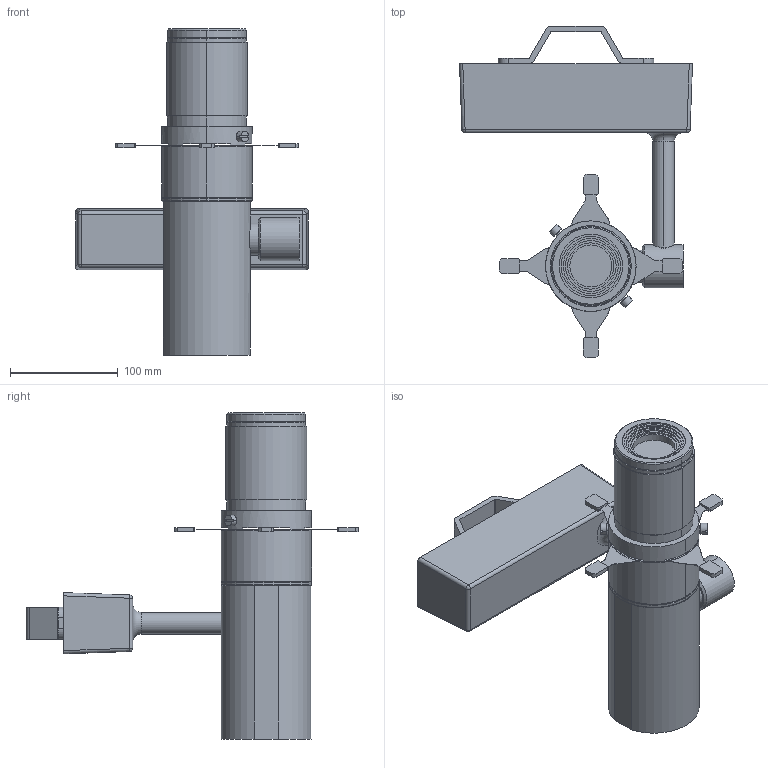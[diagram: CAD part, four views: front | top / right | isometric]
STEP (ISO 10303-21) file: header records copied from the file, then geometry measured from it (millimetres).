
FILE_DESCRIPTION (( 'STEP AP203' ), '1' );
FILE_NAME ('P1L (Clamp_Top Mount_W)_Hanging+36D_10-06-2026.STEP', '2026-06-11T01:16:06', ( '' ), ( '' ), 'SwSTEP 2.0', 'SolidWorks 2014', '' );
FILE_SCHEMA (( 'CONFIG_CONTROL_DESIGN' ));
Length unit declared in the file: millimetre
Products named in the file (4): P1L - Light Body_W; Top Mount_Yoke+PSU_(Clamp_W); 36D_Fresnel Lens_P1L_W; P1L (Clamp_Top Mount_W)_Hanging+36D_10-06-2026
Assembly tree (3 placements, depth 2):
  P1L (Clamp_Top Mount_W)_Hanging+36D_10-06-2026
    Top Mount_Yoke+PSU_(Clamp_W)
    P1L - Light Body_W
    36D_Fresnel Lens_P1L_W
Bounding box: 216.17 x 308.16 x 302.7 mm (x, y, z)
Volume: 2396530.8 mm3; surface area: 197486 mm2
Topology: 3 solids, 3 shells, 289 faces, 755 edges, 484 vertices
Faces by surface type: plane 170, cylinder 97, cone 16, sphere 4, torus 2
Entity records: 9485 total; most frequent: CARTESIAN_POINT 1792, DIRECTION 1567, ORIENTED_EDGE 1502, EDGE_CURVE 751, AXIS2_PLACEMENT_3D 535, LINE 497, VECTOR 497, VERTEX_POINT 484
